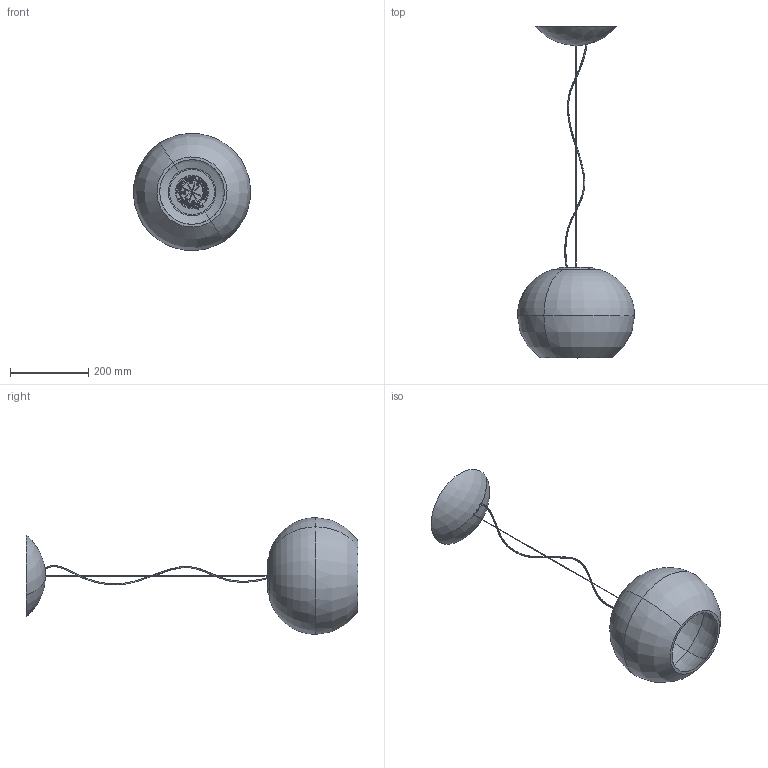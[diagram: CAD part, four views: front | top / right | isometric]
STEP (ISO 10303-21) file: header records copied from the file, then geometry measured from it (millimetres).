
FILE_DESCRIPTION (( 'STEP AP214' ), '1' );
FILE_NAME ('278_3_S_LD_3D.STEP', '2021-05-17T10:02:05', ( '' ), ( '' ), 'SwSTEP 2.0', 'SolidWorks 2021', '' );
FILE_SCHEMA (( 'AUTOMOTIVE_DESIGN' ));
Length unit declared in the file: millimetre
Products named in the file (1): 278_3_S_LD_3D
Bounding box: 299.76 x 849.58 x 299.76 mm (x, y, z)
Volume: 1857846.4 mm3; surface area: 564478.5 mm2
Topology: 5 solids, 5 shells, 1300 faces, 3362 edges, 2040 vertices
Faces by surface type: bspline 477, plane 337, cylinder 192, torus 169, cone 91, sphere 34
Entity records: 66557 total; most frequent: CARTESIAN_POINT 25121, ORIENTED_EDGE 6576, DIRECTION 4441, EDGE_CURVE 3288, VERTEX_POINT 2040, AXIS2_PLACEMENT_3D 1824, EDGE_LOOP 1368, B_SPLINE_CURVE_WITH_KNOTS 1342
